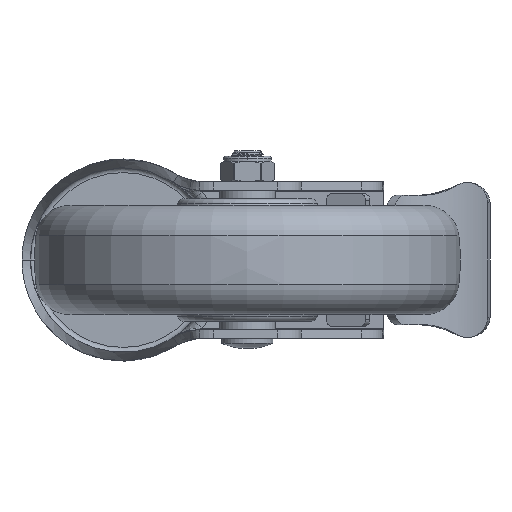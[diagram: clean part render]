
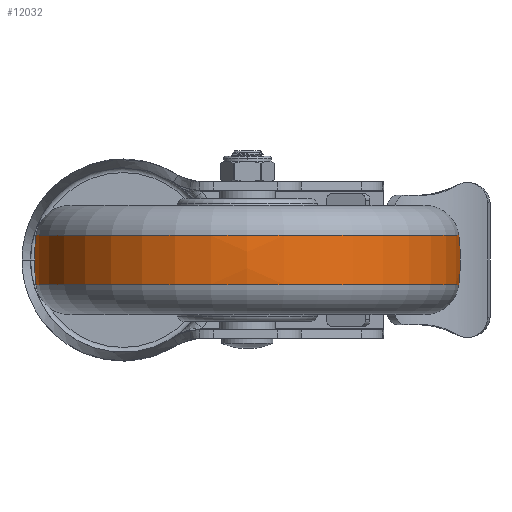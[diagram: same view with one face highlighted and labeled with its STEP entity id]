
A CAD part, front view. The second image highlights one B-rep face of the part: STEP entity #12032.
In plain terms, the highlighted free-form (B-spline) face has degree [3, 3] with [7, 4] control points.
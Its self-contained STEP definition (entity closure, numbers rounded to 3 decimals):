
#11424=CARTESIAN_POINT('',(-7.2,0.,0.));
#11425=DIRECTION('',(-1.,0.,0.));
#11426=DIRECTION('',(0.,1.,0.));
#11427=AXIS2_PLACEMENT_3D('',#11424,#11425,#11426);
#11439=CARTESIAN_POINT('',(0.,2.5,0.));
#11440=DIRECTION('',(0.,0.,1.));
#11441=DIRECTION('',(0.12,0.993,0.));
#11442=AXIS2_PLACEMENT_3D('',#11439,#11440,#11441);
#11444=CARTESIAN_POINT('',(0.,-2.5,0.));
#11445=DIRECTION('',(0.,0.,-1.));
#11446=DIRECTION('',(0.12,-0.993,0.));
#11447=AXIS2_PLACEMENT_3D('',#11444,#11445,#11446);
#11449=CARTESIAN_POINT('',(7.2,0.,0.));
#11450=DIRECTION('',(-1.,0.,0.));
#11451=DIRECTION('',(0.,1.,0.));
#11452=AXIS2_PLACEMENT_3D('',#11449,#11450,#11451);
#11673=CARTESIAN_POINT('',(-7.2,62.066,0.));
#11675=VERTEX_POINT('',#11673);
#11677=CARTESIAN_POINT('',(-7.2,-62.066,
0.));
#11679=VERTEX_POINT('',#11677);
#11706=CARTESIAN_POINT('',(7.2,62.066,0.));
#11708=VERTEX_POINT('',#11706);
#11710=CARTESIAN_POINT('',(7.2,-62.066,
0.));
#11712=VERTEX_POINT('',#11710);
#11996=CARTESIAN_POINT('',(-7.487,-61.909,
3.895));
#11997=CARTESIAN_POINT('',(-2.509,-62.533,
3.934));
#11998=CARTESIAN_POINT('',(2.509,-62.533,
3.934));
#11999=CARTESIAN_POINT('',(7.487,-61.909,
3.895));
#12000=CARTESIAN_POINT('',(-7.487,-64.306,
-34.204));
#12001=CARTESIAN_POINT('',(-2.509,-64.955,
-34.549));
#12002=CARTESIAN_POINT('',(2.509,-64.955,
-34.549));
#12003=CARTESIAN_POINT('',(7.487,-64.306,
-34.204));
#12004=CARTESIAN_POINT('',(-7.487,-38.174,
-62.031));
#12005=CARTESIAN_POINT('',(-2.509,-38.559,
-62.657));
#12006=CARTESIAN_POINT('',(2.509,-38.559,
-62.657));
#12007=CARTESIAN_POINT('',(7.487,-38.174,
-62.031));
#12008=CARTESIAN_POINT('',(-7.487,0.,
-62.031));
#12009=CARTESIAN_POINT('',(-2.509,0.,
-62.657));
#12010=CARTESIAN_POINT('',(2.509,0.,
-62.657));
#12011=CARTESIAN_POINT('',(7.487,0.,
-62.031));
#12012=CARTESIAN_POINT('',(-7.487,38.174,
-62.031));
#12013=CARTESIAN_POINT('',(-2.509,38.559,
-62.657));
#12014=CARTESIAN_POINT('',(2.509,38.559,
-62.657));
#12015=CARTESIAN_POINT('',(7.487,38.174,
-62.031));
#12016=CARTESIAN_POINT('',(-7.487,64.306,
-34.204));
#12017=CARTESIAN_POINT('',(-2.509,64.955,
-34.549));
#12018=CARTESIAN_POINT('',(2.509,64.955,
-34.549));
#12019=CARTESIAN_POINT('',(7.487,64.306,
-34.204));
#12020=CARTESIAN_POINT('',(-7.487,61.909,
3.895));
#12021=CARTESIAN_POINT('',(-2.509,62.533,
3.934));
#12022=CARTESIAN_POINT('',(2.509,62.533,3.934));
#12023=CARTESIAN_POINT('',(7.487,61.909,3.895));
#12024=(BOUNDED_SURFACE()B_SPLINE_SURFACE(3,3,((#11996,#11997,#11998,#11999),(
#12000,#12001,#12002,#12003),(#12004,#12005,#12006,#12007),(#12008,#12009,
#12010,#12011),(#12012,#12013,#12014,#12015),(#12016,#12017,#12018,#12019),(
#12020,#12021,#12022,#12023)),.UNSPECIFIED.,.F.,.F.,.F.)B_SPLINE_SURFACE_WITH_KNOTS((4,3,4),(4,4),(0.,1.,2.),(0.,1.),.UNSPECIFIED.)GEOMETRIC_REPRESENTATION_ITEM()RATIONAL_B_SPLINE_SURFACE(((1.192,1.186,
1.186,1.192),(0.941,0.936,
0.936,0.941),(0.941,0.936,
0.936,0.941),(1.192,1.186,
1.186,1.192),(0.941,0.936,
0.936,0.941),(0.941,0.936,
0.936,0.941),(1.192,1.186,
1.186,1.192)))REPRESENTATION_ITEM('')SURFACE());
#12025=ORIENTED_EDGE('',*,*,#11986,.T.);
#12026=ORIENTED_EDGE('',*,*,#11939,.T.);
#12027=ORIENTED_EDGE('',*,*,#11990,.F.);
#12029=ORIENTED_EDGE('',*,*,#12028,.F.);
#12030=EDGE_LOOP('',(#12025,#12026,#12027,#12029));
#12031=FACE_OUTER_BOUND('',#12030,.F.);
#11428=CIRCLE('',#11427,62.066);
#11443=CIRCLE('',#11442,60.);
#11448=CIRCLE('',#11447,60.);
#11453=CIRCLE('',#11452,62.066);
#11939=EDGE_CURVE('',#11675,#11679,#11428,.T.);
#11986=EDGE_CURVE('',#11708,#11675,#11443,.T.);
#11990=EDGE_CURVE('',#11712,#11679,#11448,.T.);
#12028=EDGE_CURVE('',#11708,#11712,#11453,.T.);
#12032=ADVANCED_FACE('',(#12031),#12024,.T.);
